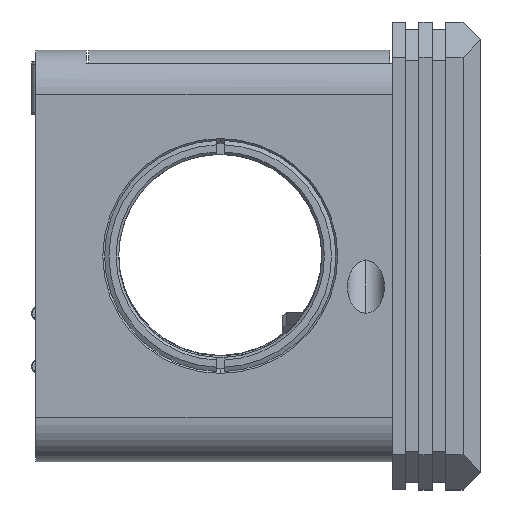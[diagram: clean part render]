
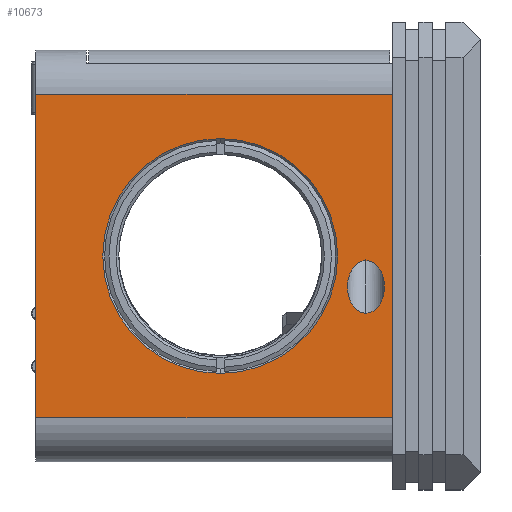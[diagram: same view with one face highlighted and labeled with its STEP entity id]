
A CAD part, left-side view. The second image highlights one B-rep face of the part: STEP entity #10673.
In plain terms, the highlighted planar face has unit normal (-1, 0, 0).
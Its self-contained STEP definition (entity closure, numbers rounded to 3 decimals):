
#11 = CIRCLE ( 'NONE', #13667, 13.3 ) ;
#62 = VERTEX_POINT ( 'NONE', #8734 ) ;
#572 = CARTESIAN_POINT ( 'NONE',  ( -23.3, 50.4, 18.3 ) ) ;
#681 = CARTESIAN_POINT ( 'NONE',  ( -23.3, 10., 18.3 ) ) ;
#811 = CARTESIAN_POINT ( 'NONE',  ( -23.3, 29.5, -13.3 ) ) ;
#1167 = VERTEX_POINT ( 'NONE', #572 ) ;
#1326 = CARTESIAN_POINT ( 'NONE',  ( -23.3, 8.8, -0.531 ) ) ;
#1372 = CARTESIAN_POINT ( 'NONE',  ( -23.3, 50.4, -23.3 ) ) ;
#1528 = VERTEX_POINT ( 'NONE', #16234 ) ;
#1913 = CARTESIAN_POINT ( 'NONE',  ( -23.3, 10., -18.3 ) ) ;
#1971 = EDGE_CURVE ( 'NONE', #62, #1528, #10752, .T. ) ;
#2084 = ORIENTED_EDGE ( 'NONE', *, *, #10207, .T. ) ;
#3050 = CARTESIAN_POINT ( 'NONE',  ( -23.3, 13., -6.471 ) ) ;
#3278 = EDGE_CURVE ( 'NONE', #1167, #19877, #12727, .T. ) ;
#3924 = VERTEX_POINT ( 'NONE', #681 ) ;
#3948 = FACE_OUTER_BOUND ( 'NONE', #8012, .T. ) ;
#4074 = LINE ( 'NONE', #5442, #7668 ) ;
#4086 = DIRECTION ( 'NONE',  ( 1., 0., 0. ) ) ;
#4373 = CIRCLE ( 'NONE', #6077, 13.3 ) ;
#5092 = EDGE_CURVE ( 'NONE', #3924, #8187, #8779, .T. ) ;
#5442 = CARTESIAN_POINT ( 'NONE',  ( -23.3, 10., -18.3 ) ) ;
#5642 = PLANE ( 'NONE',  #7099 ) ;
#5858 = FACE_BOUND ( 'NONE', #6967, .T. ) ;
#6061 = DIRECTION ( 'NONE',  ( 0., 0., 1. ) ) ;
#6077 = AXIS2_PLACEMENT_3D ( 'NONE', #7199, #7493, #19031 ) ;
#6245 = CARTESIAN_POINT ( 'NONE',  ( -23.3, 8.8, -6.471 ) ) ;
#6608 = CARTESIAN_POINT ( 'NONE',  ( -23.3, 17.2, -0.531 ) ) ;
#6860 = EDGE_CURVE ( 'NONE', #19877, #8187, #4074, .T. ) ;
#6967 = EDGE_LOOP ( 'NONE', ( #9547, #2084 ) ) ;
#6993 = ORIENTED_EDGE ( 'NONE', *, *, #5092, .F. ) ;
#7026 = CARTESIAN_POINT ( 'NONE',  ( -23.3, 13., -0.531 ) ) ;
#7099 = AXIS2_PLACEMENT_3D ( 'NONE', #15782, #17192, #6061 ) ;
#7199 = CARTESIAN_POINT ( 'NONE',  ( -23.3, 29.5, 0. ) ) ;
#7493 = DIRECTION ( 'NONE',  ( 1., 0., 0. ) ) ;
#7668 = VECTOR ( 'NONE', #11761, 1000. ) ;
#8012 = EDGE_LOOP ( 'NONE', ( #6993, #11666, #9971, #16518 ) ) ;
#8187 = VERTEX_POINT ( 'NONE', #1913 ) ;
#8561 = CARTESIAN_POINT ( 'NONE',  ( -23.3, 10., -23.3 ) ) ;
#8734 = CARTESIAN_POINT ( 'NONE',  ( -23.3, 13., -6.471 ) ) ;
#8779 = LINE ( 'NONE', #8561, #12687 ) ;
#8939 = LINE ( 'NONE', #14161, #17990 ) ;
#9025 = EDGE_LOOP ( 'NONE', ( #11951, #15687 ) ) ;
#9547 = ORIENTED_EDGE ( 'NONE', *, *, #12568, .T. ) ;
#9691 = EDGE_CURVE ( 'NONE', #3924, #1167, #8939, .T. ) ;
#9708 = VERTEX_POINT ( 'NONE', #811 ) ;
#9971 = ORIENTED_EDGE ( 'NONE', *, *, #3278, .T. ) ;
#10207 = EDGE_CURVE ( 'NONE', #20492, #9708, #4373, .T. ) ;
#10673 = ADVANCED_FACE ( 'NONE', ( #5858, #16966, #3948 ), #5642, .F. ) ;
#10752 =( BOUNDED_CURVE ( )  B_SPLINE_CURVE ( 3, ( #11855, #11646, #6608, #7026 ),
 .UNSPECIFIED., .F., .T. ) 
 B_SPLINE_CURVE_WITH_KNOTS ( ( 4, 4 ),
 ( 3.142, 6.283 ),
 .UNSPECIFIED. ) 
 CURVE ( )  GEOMETRIC_REPRESENTATION_ITEM ( )  RATIONAL_B_SPLINE_CURVE ( ( 1., 0.333, 0.333, 1. ) ) 
 REPRESENTATION_ITEM ( '' )  );
#11646 = CARTESIAN_POINT ( 'NONE',  ( -23.3, 17.2, -6.471 ) ) ;
#11666 = ORIENTED_EDGE ( 'NONE', *, *, #9691, .T. ) ;
#11761 = DIRECTION ( 'NONE',  ( 0., -1., 0. ) ) ;
#11855 = CARTESIAN_POINT ( 'NONE',  ( -23.3, 13., -6.471 ) ) ;
#11951 = ORIENTED_EDGE ( 'NONE', *, *, #14208, .T. ) ;
#12264 = VECTOR ( 'NONE', #12934, 1000. ) ;
#12568 = EDGE_CURVE ( 'NONE', #9708, #20492, #11, .T. ) ;
#12687 = VECTOR ( 'NONE', #15303, 1000. ) ;
#12727 = LINE ( 'NONE', #1372, #12264 ) ;
#12934 = DIRECTION ( 'NONE',  ( 0., 0., -1. ) ) ;
#12981 = CARTESIAN_POINT ( 'NONE',  ( -23.3, 50.4, -18.3 ) ) ;
#12986 = CARTESIAN_POINT ( 'NONE',  ( -23.3, 29.5, 13.3 ) ) ;
#13667 = AXIS2_PLACEMENT_3D ( 'NONE', #17514, #4086, #15811 ) ;
#14161 = CARTESIAN_POINT ( 'NONE',  ( -23.3, 10., 18.3 ) ) ;
#14208 = EDGE_CURVE ( 'NONE', #1528, #62, #16244, .T. ) ;
#15303 = DIRECTION ( 'NONE',  ( 0., 0., -1. ) ) ;
#15559 = DIRECTION ( 'NONE',  ( 0., 1., 0. ) ) ;
#15687 = ORIENTED_EDGE ( 'NONE', *, *, #1971, .T. ) ;
#15782 = CARTESIAN_POINT ( 'NONE',  ( -23.3, 10., -23.3 ) ) ;
#15811 = DIRECTION ( 'NONE',  ( 0., 0., 1. ) ) ;
#15976 = CARTESIAN_POINT ( 'NONE',  ( -23.3, 13., -0.531 ) ) ;
#16234 = CARTESIAN_POINT ( 'NONE',  ( -23.3, 13., -0.531 ) ) ;
#16244 =( BOUNDED_CURVE ( )  B_SPLINE_CURVE ( 3, ( #15976, #1326, #6245, #3050 ),
 .UNSPECIFIED., .F., .F. ) 
 B_SPLINE_CURVE_WITH_KNOTS ( ( 4, 4 ),
 ( 0., 3.142 ),
 .UNSPECIFIED. ) 
 CURVE ( )  GEOMETRIC_REPRESENTATION_ITEM ( )  RATIONAL_B_SPLINE_CURVE ( ( 1., 0.333, 0.333, 1. ) ) 
 REPRESENTATION_ITEM ( '' )  );
#16518 = ORIENTED_EDGE ( 'NONE', *, *, #6860, .T. ) ;
#16966 = FACE_BOUND ( 'NONE', #9025, .T. ) ;
#17192 = DIRECTION ( 'NONE',  ( 1., 0., 0. ) ) ;
#17514 = CARTESIAN_POINT ( 'NONE',  ( -23.3, 29.5, 0. ) ) ;
#17990 = VECTOR ( 'NONE', #15559, 1000. ) ;
#19031 = DIRECTION ( 'NONE',  ( 0., 0., 1. ) ) ;
#19877 = VERTEX_POINT ( 'NONE', #12981 ) ;
#20492 = VERTEX_POINT ( 'NONE', #12986 ) ;
